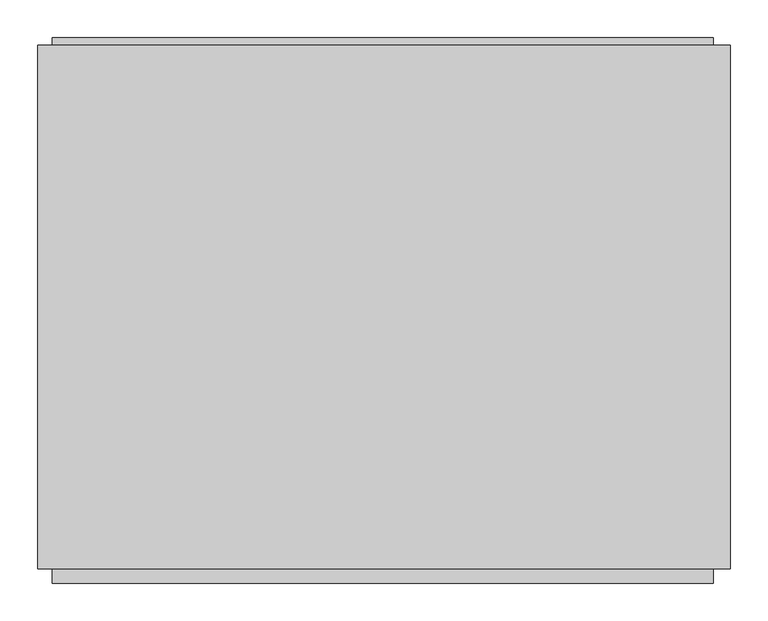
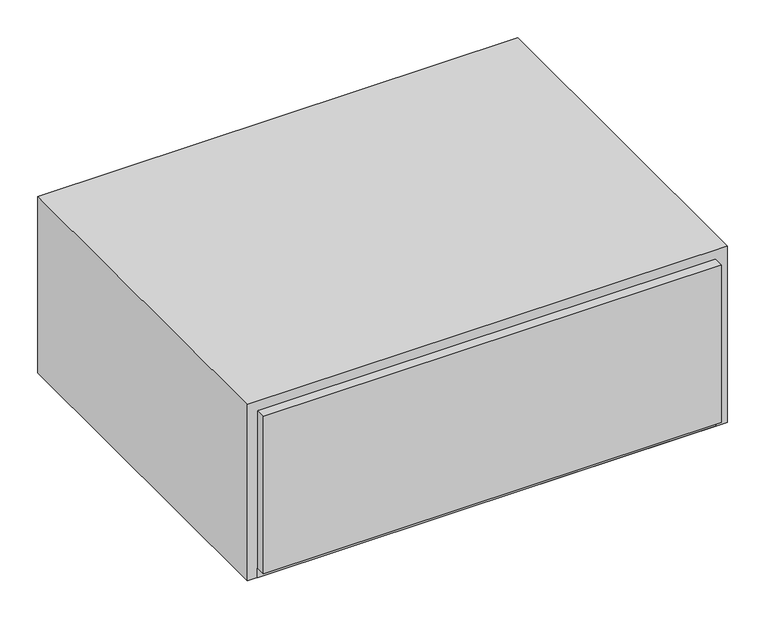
"""IFC4 building model written with IfcOpenShell, lengths in millimetres: proxy geometry, BASYS^OFFICE 1_CPU STORAGE-14x36x28.38-PARTS SOLID."""

from ifc_helpers import new_model, si_unit, frame, origin, origin_with_axes, place, context, project, spatial, polyline, outline, extrude, source, transform, mapped, element, save


def generic_models_dc8f7d69(model_context):
    return source(origin(), model_context, "Body", "SweptSolid", [
        extrude(outline(polyline([(892.175, 0.0), (19.05, 0.0), (19.05, 692.15), (892.175, 692.15), (892.175, 0.0)])), origin_with_axes(), (0.0, 0.0, 1.0), 19.05),
        extrude(outline(polyline([(19.05, 673.1), (19.05, 701.675), (892.175, 701.675), (892.175, 673.1), (19.05, 673.1)])), frame((0.0, 0.0, 19.05), z_axis=(0.0, 0.0, 1.0), x_axis=(1.0, 0.0, 0.0)), (0.0, 0.0, 1.0), 317.5),
        extrude(outline(polyline([(19.05, -19.05), (19.05, 19.05), (892.175, 19.05), (892.175, -19.05), (19.05, -19.05)])), frame((0.0, 0.0, 19.05), z_axis=(0.0, 0.0, 1.0), x_axis=(1.0, 0.0, 0.0)), (0.0, 0.0, 1.0), 317.5),
        extrude(outline(polyline([(914.4, 0.0), (0.0, 0.0), (0.0, 692.15), (914.4, 692.15), (914.4, 0.0)])), origin_with_axes(), (0.0, 0.0, 1.0), 355.6),
    ])


if __name__ == "__main__":
    model = new_model("IFC4")
    model_context = context("Model", 3, world=origin())
    ifc_project = project(units=[si_unit("LENGTHUNIT", "METRE", prefix="MILLI")], contexts=[model_context])
    site = spatial("IfcSite", under=ifc_project)
    building = spatial("IfcBuilding", under=site)
    placement = place(None, origin())
    generic_models_shape = generic_models_dc8f7d69(model_context)
    element("IfcBuildingElementProxy", 1, Name="BASYS^OFFICE 1_CPU STORAGE-14x36x28.38-PARTS SOLID", ObjectType="BASYS^OFFICE 1_CPU STORAGE-14x36x28.38-PARTS SOLID", at=placement, inside=building, context=model_context, shape_type="MappedRepresentation", body=[
        mapped(generic_models_shape, transform((0.0, 0.0, 0.0), x_axis=(1.0, 0.0, 0.0), y_axis=(0.0, 1.0, 0.0), z_axis=(0.0, 0.0, 1.0))),
    ])
    save(model, "model.ifc")
